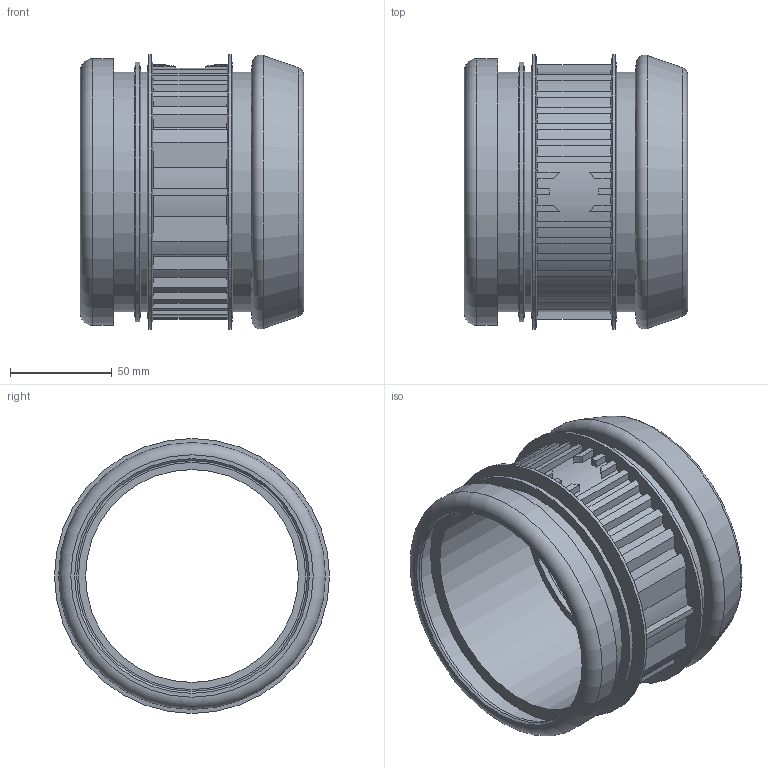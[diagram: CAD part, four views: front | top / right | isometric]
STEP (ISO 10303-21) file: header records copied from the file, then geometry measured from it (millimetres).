
FILE_DESCRIPTION(/* description */ (''),/* implementation_level */ '2;1');
FILE_NAME(/* name */ 'Z:\Geberit\Export\NewStep\310002.stp',/* time_stamp */ '2014-04-01T20:06:35+02:00',/* author */ ('ML'),/* organization */ (''),/* preprocessor_version */ 'ST-DEVELOPER v15.2',/* originating_system */ 'Autodesk Inventor 2014',/* authorisation */ '');
FILE_SCHEMA (('AUTOMOTIVE_DESIGN { 1 0 10303 214 3 1 1 }'));
Length unit declared in the file: millimetre
Products named in the file (1): 310002
Bounding box: 109.66 x 135 x 135 mm (x, y, z)
Volume: 185498.9 mm3; surface area: 126938.2 mm2
Topology: 1 solids, 1 shells, 176 faces, 487 edges, 317 vertices
Faces by surface type: cylinder 83, plane 76, cone 13, torus 4
Full cylindrical faces by diameter (mm): 104.5 x1, 111.5 x3, 113.2 x1, 117.5 x3, 124.5 x1, 127.5 x1, 131 x1, 135 x2
Entity records: 5571 total; most frequent: CARTESIAN_POINT 1263, ORIENTED_EDGE 910, DIRECTION 832, EDGE_CURVE 455, AXIS2_PLACEMENT_3D 340, VERTEX_POINT 315, EDGE_LOOP 212, STYLED_ITEM 177
